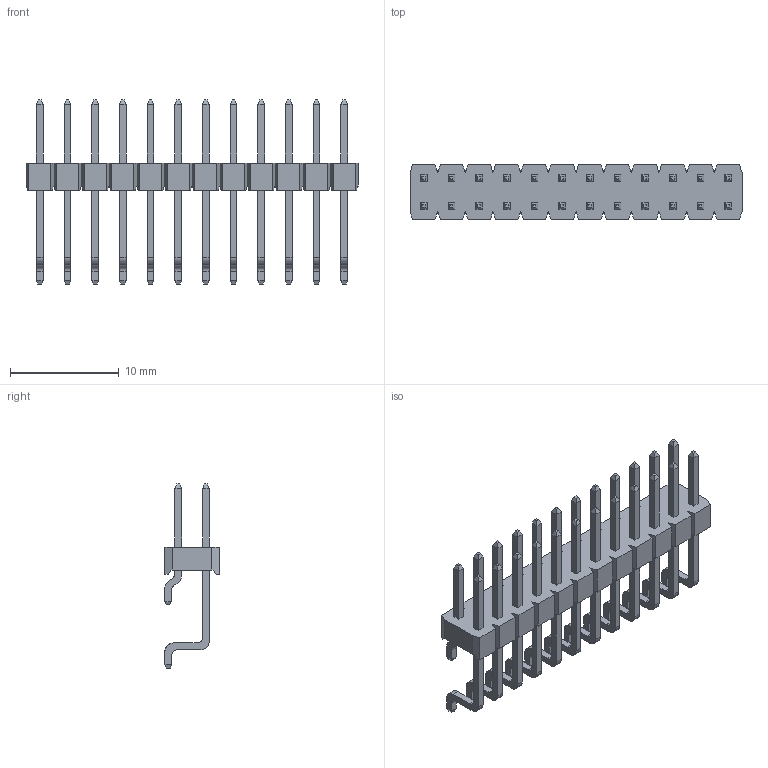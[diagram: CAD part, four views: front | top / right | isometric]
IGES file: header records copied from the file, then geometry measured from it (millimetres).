
Global section: file name: N:\ESD\Matthias\GolfVI\2184\UG files\Part Family\961224-5500-XX-XX.igs; native system: NX V5.0; preprocessor: UGS NX IGES V5.0; date: 20080611.131515; units: millimetre
Bounding box: 30.48 x 5.02 x 16.9 mm (x, y, z)
Surface area: 1330.8 mm2 (no closed solid volume)
Topology: 0 solids, 0 shells, 748 faces, 3853 edges, 3853 vertices
Faces by surface type: bspline 748
